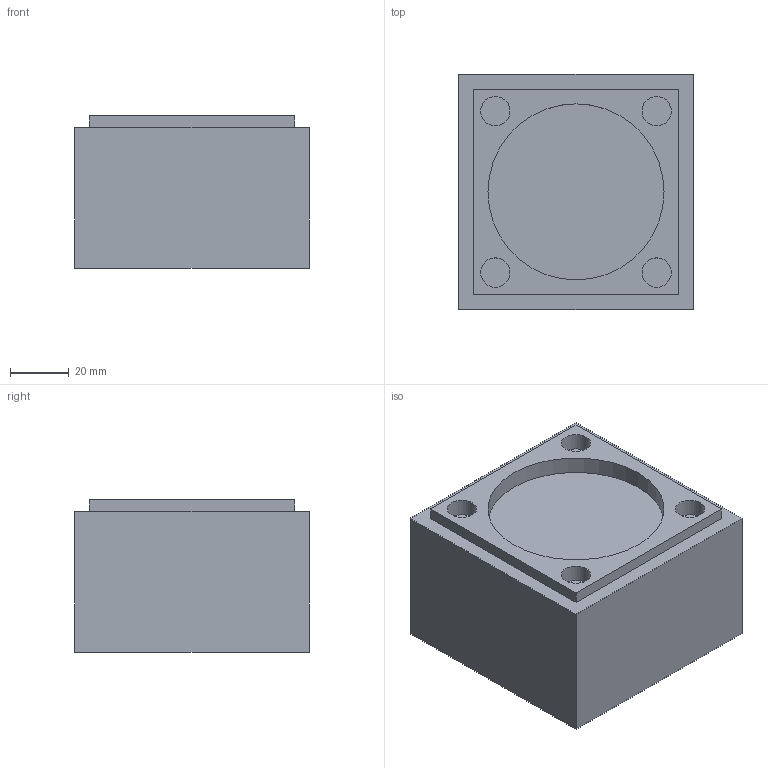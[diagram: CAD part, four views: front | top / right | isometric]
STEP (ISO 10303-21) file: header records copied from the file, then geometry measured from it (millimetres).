
FILE_DESCRIPTION(/* description */ (''),/* implementation_level */ '2;1');
FILE_NAME(/* name */ '6.step',/* time_stamp */ '2025-09-02T11:26:48+02:00',/* author */ (''),/* organization */ (''),/* preprocessor_version */ 'ST-DEVELOPER v20.1',/* originating_system */ 'Autodesk Translation Framework v14.10.0.0',/* authorisation */ '');
FILE_SCHEMA (('AUTOMOTIVE_DESIGN { 1 0 10303 214 3 1 1 }'));
Length unit declared in the file: millimetre
Products named in the file (1): Stufe 5
Bounding box: 80 x 80 x 52 mm (x, y, z)
Volume: 307950.4 mm3; surface area: 31165 mm2
Topology: 1 solids, 1 shells, 21 faces, 39 edges, 26 vertices
Faces by surface type: plane 16, cylinder 5
Full cylindrical faces by diameter (mm): 10 x4, 60 x1
Entity records: 556 total; most frequent: DIRECTION 93, CARTESIAN_POINT 87, ORIENTED_EDGE 78, EDGE_CURVE 39, AXIS2_PLACEMENT_3D 32, LINE 29, VECTOR 29, EDGE_LOOP 27
